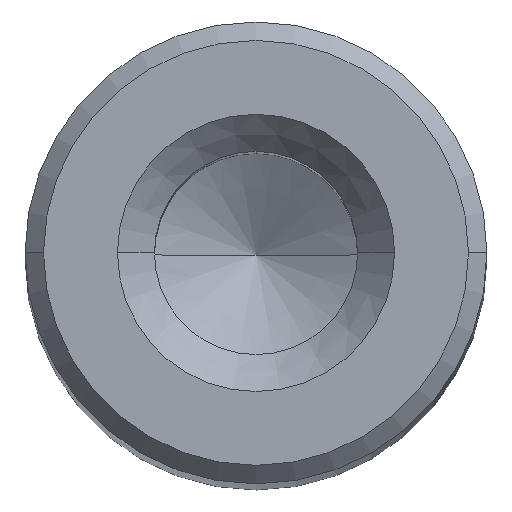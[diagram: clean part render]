
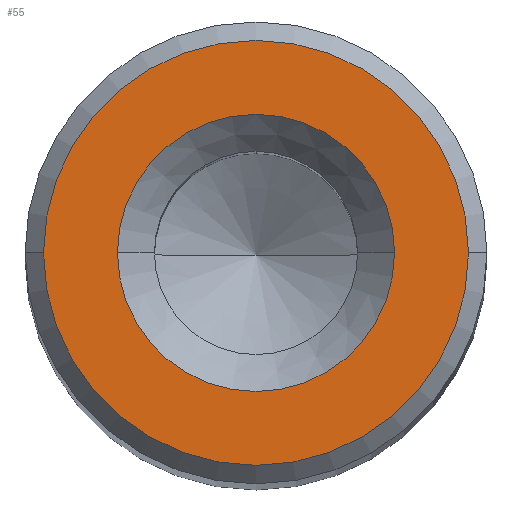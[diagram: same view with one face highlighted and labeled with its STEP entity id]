
A CAD part, top view. The second image highlights one B-rep face of the part: STEP entity #55.
In plain terms, the highlighted planar face has unit normal (0, 0, 1).
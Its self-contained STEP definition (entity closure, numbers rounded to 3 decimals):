
#7 = VERTEX_POINT ( 'NONE', #344 ) ;
#8 = VERTEX_POINT ( 'NONE', #276 ) ;
#10 = EDGE_CURVE ( 'NONE', #8, #7, #409, .T. ) ;
#29 = VERTEX_POINT ( 'NONE', #381 ) ;
#55 = ADVANCED_FACE ( 'NONE', ( #288, #287 ), #353, .T. ) ;
#170 = EDGE_CURVE ( 'NONE', #29, #187, #703, .T. ) ;
#187 = VERTEX_POINT ( 'NONE', #808 ) ;
#193 = EDGE_LOOP ( 'NONE', ( #194, #212 ) ) ;
#194 = ORIENTED_EDGE ( 'NONE', *, *, #10, .F. ) ;
#195 = EDGE_LOOP ( 'NONE', ( #214, #215 ) ) ;
#212 = ORIENTED_EDGE ( 'NONE', *, *, #213, .F. ) ;
#213 = EDGE_CURVE ( 'NONE', #7, #8, #907, .T. ) ;
#214 = ORIENTED_EDGE ( 'NONE', *, *, #232, .T. ) ;
#215 = ORIENTED_EDGE ( 'NONE', *, *, #170, .T. ) ;
#232 = EDGE_CURVE ( 'NONE', #187, #29, #937, .T. ) ;
#276 = CARTESIAN_POINT ( 'NONE',  ( -2.3, 0., 38.5 ) ) ;
#287 = FACE_BOUND ( 'NONE', #195, .T. ) ;
#288 = FACE_OUTER_BOUND ( 'NONE', #193, .T. ) ;
#344 = CARTESIAN_POINT ( 'NONE',  ( 2.3, 0., 38.5 ) ) ;
#347 = DIRECTION ( 'NONE',  ( 0., -1., 0. ) ) ;
#348 = DIRECTION ( 'NONE',  ( 0., 0., 1. ) ) ;
#349 = CARTESIAN_POINT ( 'NONE',  ( 0.941, 3.103, 38.5 ) ) ;
#350 = AXIS2_PLACEMENT_3D ( 'NONE', #349, #348, #347 ) ;
#353 = PLANE ( 'NONE',  #350 ) ;
#381 = CARTESIAN_POINT ( 'NONE',  ( -1.5, 0., 38.5 ) ) ;
#396 = DIRECTION ( 'NONE',  ( -1., 0., 0. ) ) ;
#397 = DIRECTION ( 'NONE',  ( 0., 0., -1. ) ) ;
#398 = CARTESIAN_POINT ( 'NONE',  ( 0., 0., 38.5 ) ) ;
#408 = AXIS2_PLACEMENT_3D ( 'NONE', #398, #397, #396 ) ;
#409 = CIRCLE ( 'NONE', #408, 2.3 ) ;
#702 = AXIS2_PLACEMENT_3D ( 'NONE', #802, #801, #800 ) ;
#703 = CIRCLE ( 'NONE', #702, 1.5 ) ;
#800 = DIRECTION ( 'NONE',  ( 1., 0., 0. ) ) ;
#801 = DIRECTION ( 'NONE',  ( 0., 0., -1. ) ) ;
#802 = CARTESIAN_POINT ( 'NONE',  ( 0., 0., 38.5 ) ) ;
#808 = CARTESIAN_POINT ( 'NONE',  ( 1.5, 0., 38.5 ) ) ;
#903 = DIRECTION ( 'NONE',  ( -1., 0., 0. ) ) ;
#904 = DIRECTION ( 'NONE',  ( 0., 0., -1. ) ) ;
#905 = CARTESIAN_POINT ( 'NONE',  ( 0., 0., 38.5 ) ) ;
#906 = AXIS2_PLACEMENT_3D ( 'NONE', #905, #904, #903 ) ;
#907 = CIRCLE ( 'NONE', #906, 2.3 ) ;
#916 = AXIS2_PLACEMENT_3D ( 'NONE', #923, #922, #921 ) ;
#921 = DIRECTION ( 'NONE',  ( 1., 0., 0. ) ) ;
#922 = DIRECTION ( 'NONE',  ( 0., 0., -1. ) ) ;
#923 = CARTESIAN_POINT ( 'NONE',  ( 0., 0., 38.5 ) ) ;
#937 = CIRCLE ( 'NONE', #916, 1.5 ) ;
